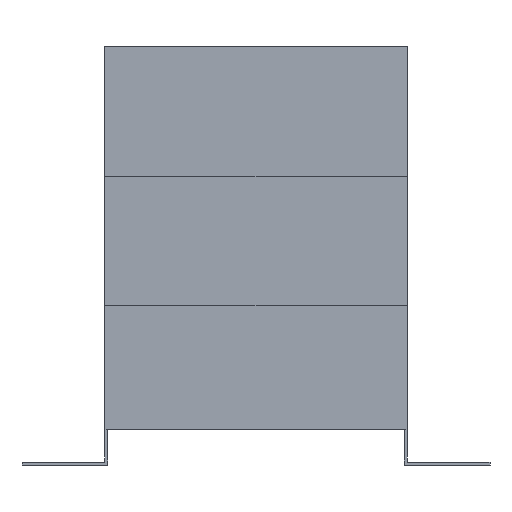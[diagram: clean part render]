
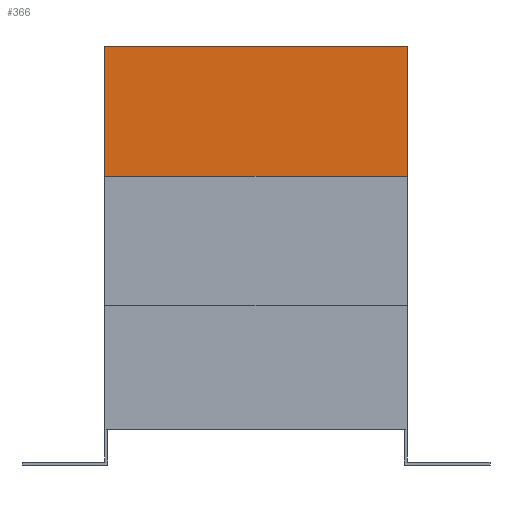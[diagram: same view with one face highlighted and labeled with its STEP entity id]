
A CAD part, front view. The second image highlights one B-rep face of the part: STEP entity #366.
In plain terms, the highlighted planar face has unit normal (0, -1, 0).
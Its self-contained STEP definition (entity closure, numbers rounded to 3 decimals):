
#7 = VERTEX_POINT ( 'NONE', #46 ) ;
#13 = VERTEX_POINT ( 'NONE', #174 ) ;
#31 = DIRECTION ( 'NONE',  ( -1., 0., 0. ) ) ;
#40 = DIRECTION ( 'NONE',  ( -1., 0., 0. ) ) ;
#46 = CARTESIAN_POINT ( 'NONE',  ( -33.5, -15.1, 210. ) ) ;
#55 = CARTESIAN_POINT ( 'NONE',  ( -185.5, -15.1, 210. ) ) ;
#75 = CARTESIAN_POINT ( 'NONE',  ( -33.5, -15.1, 145. ) ) ;
#77 = DIRECTION ( 'NONE',  ( 0., 0., -1. ) ) ;
#100 = CARTESIAN_POINT ( 'NONE',  ( -33.5, -15.1, 145. ) ) ;
#121 = DIRECTION ( 'NONE',  ( 0., 1., 0. ) ) ;
#125 = CARTESIAN_POINT ( 'NONE',  ( -33.5, -15.1, 145. ) ) ;
#128 = PLANE ( 'NONE',  #510 ) ;
#174 = CARTESIAN_POINT ( 'NONE',  ( -185.5, -15.1, 145. ) ) ;
#210 = VERTEX_POINT ( 'NONE', #55 ) ;
#240 = DIRECTION ( 'NONE',  ( -1., 0., 0. ) ) ;
#284 = CARTESIAN_POINT ( 'NONE',  ( -33.5, -15.1, 145. ) ) ;
#366 = ADVANCED_FACE ( 'NONE', ( #702 ), #128, .F. ) ;
#382 = DIRECTION ( 'NONE',  ( 0., 0., -1. ) ) ;
#385 = CARTESIAN_POINT ( 'NONE',  ( -33.5, -15.1, 210. ) ) ;
#395 = CARTESIAN_POINT ( 'NONE',  ( -185.5, -15.1, 145. ) ) ;
#426 = EDGE_CURVE ( 'NONE', #971, #13, #777, .T. ) ;
#429 = EDGE_CURVE ( 'NONE', #7, #971, #715, .T. ) ;
#443 = EDGE_CURVE ( 'NONE', #210, #13, #871, .T. ) ;
#446 = EDGE_CURVE ( 'NONE', #7, #210, #718, .T. ) ;
#510 = AXIS2_PLACEMENT_3D ( 'NONE', #125, #121, #40 ) ;
#560 = ORIENTED_EDGE ( 'NONE', *, *, #446, .T. ) ;
#649 = ORIENTED_EDGE ( 'NONE', *, *, #426, .F. ) ;
#687 = VECTOR ( 'NONE', #382, 1000. ) ;
#702 = FACE_OUTER_BOUND ( 'NONE', #902, .T. ) ;
#709 = ORIENTED_EDGE ( 'NONE', *, *, #443, .T. ) ;
#715 = LINE ( 'NONE', #75, #741 ) ;
#718 = LINE ( 'NONE', #385, #782 ) ;
#741 = VECTOR ( 'NONE', #77, 1000. ) ;
#777 = LINE ( 'NONE', #100, #814 ) ;
#782 = VECTOR ( 'NONE', #240, 1000. ) ;
#805 = ORIENTED_EDGE ( 'NONE', *, *, #429, .F. ) ;
#814 = VECTOR ( 'NONE', #31, 1000. ) ;
#871 = LINE ( 'NONE', #395, #687 ) ;
#902 = EDGE_LOOP ( 'NONE', ( #709, #649, #805, #560 ) ) ;
#971 = VERTEX_POINT ( 'NONE', #284 ) ;
